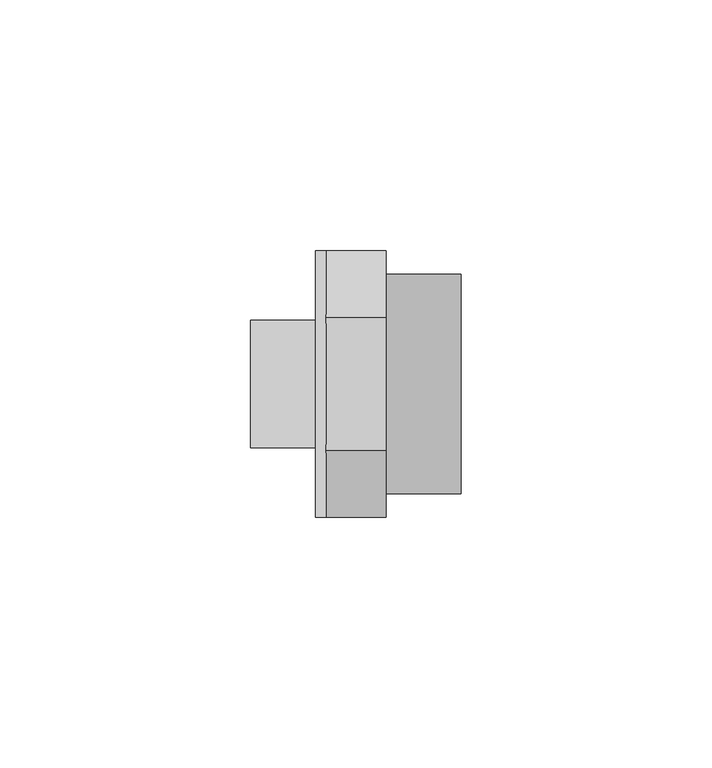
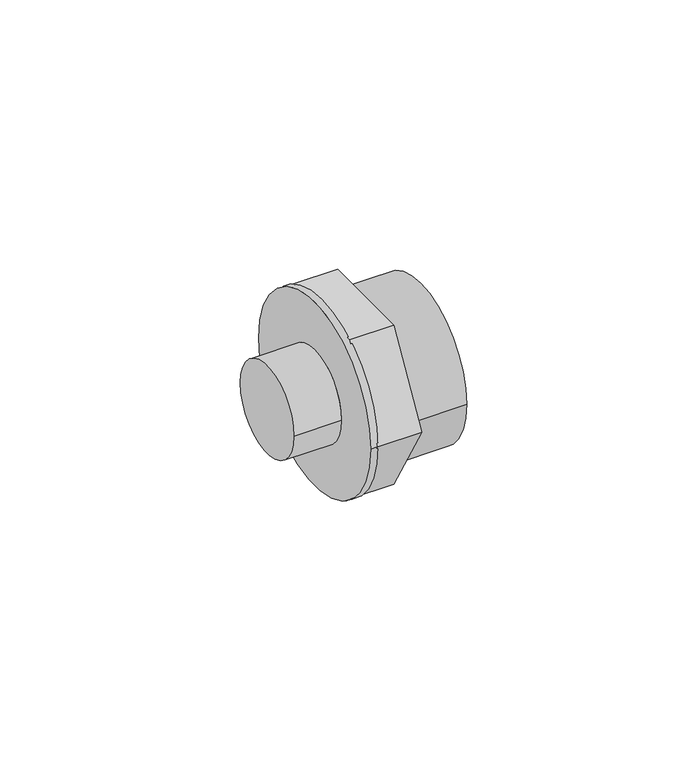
"""IFC4 building model written with IfcOpenShell, lengths in millimetres: pipe fitting geometry, 01011169 : Uniao M/F."""

from ifc_helpers import new_model, si_unit, frame, origin, place, context, project, spatial, circle_curve, source, transform, mapped, element, save
from ifc_brep_helpers import plane_surface, cylinder_surface, advanced_brep


def pipe_fitting_186ccd4c(model_context):
    return source(origin(), model_context, "Body", "AdvancedBrep", [
        advanced_brep(
        [(6.0, -13.2790562, 23.0), (6.0, -26.5581124, 0.0), (6.0, -13.2790562, -23.0), (6.0, 13.2790562, -23.0), (6.0, 26.5581124, 0.0), (6.0, 13.2790562, 23.0), (6.0, -21.85, 0.0), (6.0, 21.85, 0.0), (-6.0, -13.2790562, 23.0), (-6.0, -26.5581124, 0.0), (-6.0, -13.2790562, -23.0), (-6.0, 13.2790562, -23.0), (-6.0, 26.5581124, 0.0), (-6.0, 13.2790562, 23.0), (21.0, -21.85, 0.0), (21.0, 21.85, 0.0), (-21.0, 12.7, 0.0), (-21.0, -12.7, 0.0), (-8.0, -12.7, 0.0), (-8.0, 12.7, 0.0), (-8.0, -26.5581124, 0.0), (-8.0, 26.5581124, 0.0)],
        [
            (0, 1),
            (1, 2),
            (2, 3),
            (3, 4),
            (4, 5),
            (5, 0),
            (6, 7, circle_curve(frame((6.0, 0.0, 0.0), z_axis=(-1.0, 0.0, 0.0), x_axis=(0.0, 1.0, 0.0)), 21.85)),
            (7, 6, circle_curve(frame((6.0, 0.0, 0.0), z_axis=(-1.0, 0.0, 0.0), x_axis=(0.0, 1.0, 0.0)), 21.85)),
            (0, 8),
            (8, 9),
            (9, 1),
            (9, 10),
            (10, 2),
            (10, 11),
            (11, 3),
            (11, 12),
            (12, 4),
            (12, 13),
            (13, 5),
            (13, 8),
            (14, 15, circle_curve(frame((21.0, 0.0, 0.0), z_axis=(1.0, 0.0, 0.0), x_axis=(0.0, 1.0, 0.0)), 21.85)),
            (15, 14, circle_curve(frame((21.0, 0.0, 0.0), z_axis=(1.0, 0.0, 0.0), x_axis=(0.0, 1.0, 0.0)), 21.85)),
            (15, 7),
            (6, 14),
            (16, 17, circle_curve(frame((-21.0, 0.0, 0.0), z_axis=(-1.0, 0.0, 0.0), x_axis=(0.0, -1.0, 0.0)), 12.7)),
            (17, 16, circle_curve(frame((-21.0, 0.0, 0.0), z_axis=(-1.0, 0.0, 0.0), x_axis=(0.0, -1.0, 0.0)), 12.7)),
            (17, 18),
            (18, 19, circle_curve(frame((-8.0, 0.0, 0.0), z_axis=(-1.0, 0.0, 0.0), x_axis=(0.0, -1.0, 0.0)), 12.7)),
            (19, 16),
            (19, 18, circle_curve(frame((-8.0, 0.0, 0.0), z_axis=(-1.0, 0.0, 0.0), x_axis=(0.0, -1.0, 0.0)), 12.7)),
            (8, 9, circle_curve(frame((-6.0, 0.0, 0.0), z_axis=(1.0, 0.0, 0.0), x_axis=(0.0, 1.0, 0.0)), 26.5581124)),
            (12, 13, circle_curve(frame((-6.0, 0.0, 0.0), z_axis=(1.0, 0.0, 0.0), x_axis=(0.0, 1.0, 0.0)), 26.5581124)),
            (13, 8, circle_curve(frame((-6.0, 0.0, 0.0), z_axis=(1.0, 0.0, 0.0), x_axis=(0.0, 1.0, 0.0)), 26.5581124)),
            (11, 12, circle_curve(frame((-6.0, 0.0, 0.0), z_axis=(1.0, 0.0, 0.0), x_axis=(0.0, 1.0, 0.0)), 26.5581124)),
            (9, 10, circle_curve(frame((-6.0, 0.0, 0.0), z_axis=(1.0, 0.0, 0.0), x_axis=(0.0, 1.0, 0.0)), 26.5581124)),
            (10, 11, circle_curve(frame((-6.0, 0.0, 0.0), z_axis=(1.0, 0.0, 0.0), x_axis=(0.0, 1.0, 0.0)), 26.5581124)),
            (20, 21, circle_curve(frame((-8.0, 0.0, 0.0), z_axis=(-1.0, 0.0, 0.0), x_axis=(0.0, 1.0, 0.0)), 26.5581124)),
            (21, 20, circle_curve(frame((-8.0, 0.0, 0.0), z_axis=(-1.0, 0.0, 0.0), x_axis=(0.0, 1.0, 0.0)), 26.5581124)),
            (21, 12),
            (9, 20),
        ],
        [
            plane_surface(frame((6.0, -13.2790562, 23.0), z_axis=(1.0000000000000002, 0.0, 0.0), x_axis=(0.0, -0.5000000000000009, -0.8660254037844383))),
            plane_surface(frame((6.0, -13.2790562, 23.0), z_axis=(0.0, -0.8660254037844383, 0.5000000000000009), x_axis=(-1.0, 0.0, 0.0))),
            plane_surface(frame((6.0, -26.5581124, 0.0), z_axis=(0.0, -0.866025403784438, -0.500000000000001), x_axis=(-1.0, 0.0, 0.0))),
            plane_surface(frame((6.0, -13.2790562, -23.0), z_axis=(0.0, 0.0, -1.0), x_axis=(-1.0, 0.0, 0.0))),
            plane_surface(frame((6.0, 13.2790562, -23.0), z_axis=(0.0, 0.8660254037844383, -0.5000000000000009), x_axis=(-1.0, 0.0, 0.0))),
            plane_surface(frame((6.0, 26.5581124, 0.0), z_axis=(0.0, 0.8660254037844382, 0.500000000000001), x_axis=(-1.0, 0.0, 0.0))),
            plane_surface(frame((6.0, 13.2790562, 23.0), z_axis=(0.0, 0.0, 1.0), x_axis=(-1.0, 0.0, 0.0))),
            plane_surface(frame((21.0, 0.0, 0.0), z_axis=(1.0, 0.0, 0.0), x_axis=(0.0, 0.0, 1.0))),
            cylinder_surface(frame((0.0, 0.0, 0.0), z_axis=(-1.0, 0.0, 0.0), x_axis=(0.0, 1.0, 0.0)), 21.85),
            plane_surface(frame((-21.0, 0.0, 0.0), z_axis=(-1.0, 0.0, 0.0), x_axis=(0.0, 0.0, 1.0))),
            cylinder_surface(frame((0.0, 0.0, 0.0), z_axis=(1.0, 0.0, 0.0), x_axis=(0.0, -1.0, 0.0)), 12.7),
            plane_surface(frame((-6.0, 26.5581124, 0.0), z_axis=(1.0, 0.0, 0.0), x_axis=(0.0, 0.0, 1.0))),
            plane_surface(frame((-8.0, 26.5581124, 0.0), z_axis=(-1.0, 0.0, 0.0), x_axis=(0.0, 0.0, -1.0))),
            cylinder_surface(frame((-8.0, 0.0, 0.0), z_axis=(1.0, 0.0, 0.0), x_axis=(0.0, 1.0, 0.0)), 26.5581124),
        ],
        [
            (0, [[1, 2, 3, 4, 5, 6], [7, 8]]),
            (1, [[-1, 9, 10, 11]]),
            (2, [[-2, -11, 12, 13]]),
            (3, [[-3, -13, 14, 15]]),
            (4, [[-4, -15, 16, 17]]),
            (5, [[-5, -17, 18, 19]]),
            (6, [[-6, -19, 20, -9]]),
            (7, [[21, 22]]),
            (8, [[-22, 23, -7, 24]]),
            (8, [[-21, -24, -8, -23]]),
            (9, [[25, 26]]),
            (10, [[-26, 27, 28, 29]]),
            (10, [[-25, -29, 30, -27]]),
            (11, [[31, -10]]),
            (11, [[32, -18]]),
            (11, [[33, -20]]),
            (11, [[34, -16]]),
            (11, [[35, -12]]),
            (11, [[36, -14]]),
            (12, [[37, 38], [-28, -30]]),
            (13, [[-38, 39, -34, -36, -35, 40]]),
            (13, [[-37, -40, -31, -33, -32, -39]]),
        ],
    ),
    ])


if __name__ == "__main__":
    model = new_model("IFC4")
    model_context = context("Model", 3, world=origin())
    ifc_project = project(units=[si_unit("LENGTHUNIT", "METRE", prefix="MILLI")], contexts=[model_context])
    site = spatial("IfcSite", under=ifc_project)
    building = spatial("IfcBuilding", under=site)
    placement = place(None, origin())
    pipe_fitting_shape = pipe_fitting_186ccd4c(model_context)
    element("IfcPipeFitting", 1, ObjectType="01011169 : Uniao M/F", at=placement, inside=building, context=model_context, shape_type="MappedRepresentation", body=[
        mapped(pipe_fitting_shape, transform((0.0, 0.0, 0.0), x_axis=(1.0, 0.0, 0.0), y_axis=(0.0, 1.0, 0.0), z_axis=(0.0, 0.0, 1.0))),
    ])
    save(model, "model.ifc")
